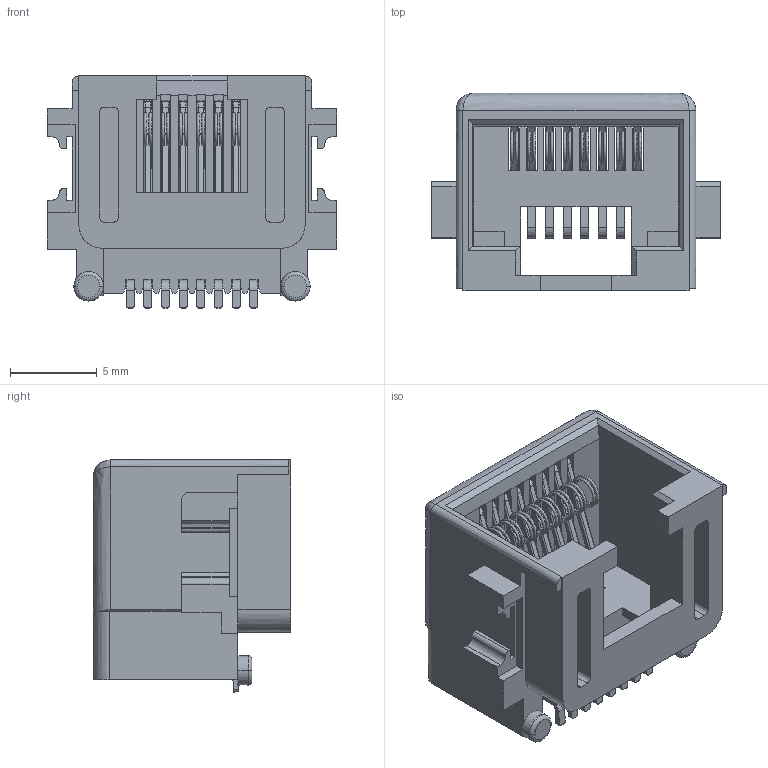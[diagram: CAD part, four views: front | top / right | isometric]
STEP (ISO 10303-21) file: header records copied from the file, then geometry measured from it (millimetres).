
FILE_DESCRIPTION((''),'2;1');
FILE_NAME('PRT0003','2018-03-09T',('Administrator'),(''),'PRO/ENGINEER BY PARAMETRIC TECHNOLOGY CORPORATION, 2009280','PRO/ENGINEER BY PARAMETRIC TECHNOLOGY CORPORATION, 2009280','');
FILE_SCHEMA(('CONFIG_CONTROL_DESIGN'));
Products named in the file (1): PRT0003
Bounding box: 16.7 x 11.4 x 13.41 mm (x, y, z)
Surface area: 1978.4 mm2 (no closed solid volume)
Topology: 0 solids, 0 shells, 951 faces, 4902 edges, 4850 vertices
Faces by surface type: bspline 899, torus 52
Entity records: 63603 total; most frequent: CARTESIAN_POINT 18897, DIRECTION 6939, TRIMMED_CURVE 6589, VECTOR 6343, LINE 6343, DEFINITIONAL_REPRESENTATION 4798, PCURVE 4798, COMPOSITE_CURVE_SEGMENT 4798
